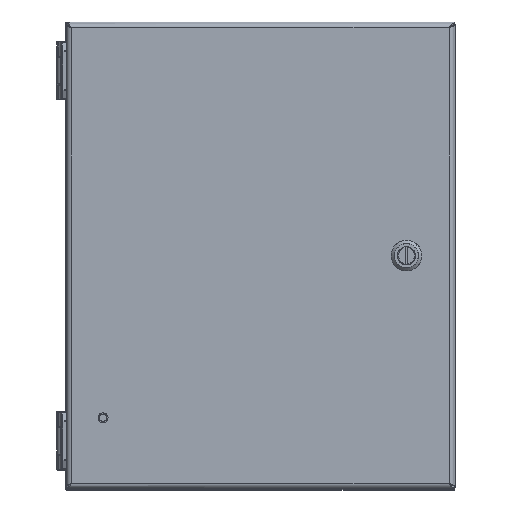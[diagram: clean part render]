
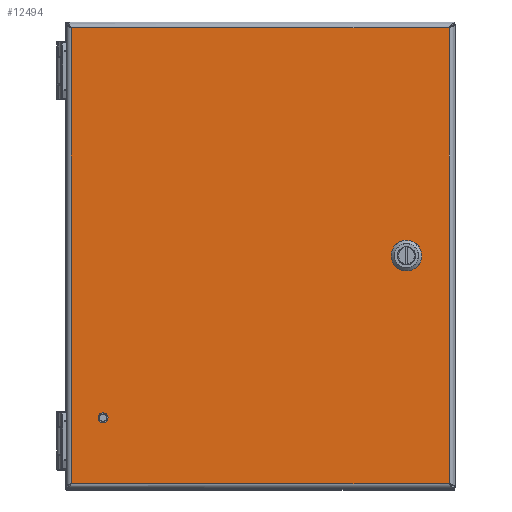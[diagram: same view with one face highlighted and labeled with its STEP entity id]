
A CAD part, top view. The second image highlights one B-rep face of the part: STEP entity #12494.
In plain terms, the highlighted planar face has unit normal (0, 0, 1).
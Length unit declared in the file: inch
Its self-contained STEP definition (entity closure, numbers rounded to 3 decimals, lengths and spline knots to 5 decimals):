
#10501=CARTESIAN_POINT('',(-4.035,-4.16,0.81));
#10502=DIRECTION('',(0.,0.,1.));
#10503=DIRECTION('',(-1.,0.,0.));
#10504=AXIS2_PLACEMENT_3D('',#10501,#10502,#10503);
#10509=CARTESIAN_POINT('',(-4.035,-4.16,0.81));
#10510=DIRECTION('',(0.,0.,1.));
#10511=DIRECTION('',(1.,0.,0.));
#10512=AXIS2_PLACEMENT_3D('',#10509,#10510,#10511);
#10517=DIRECTION('',(0.707,0.707,0.));
#10518=VECTOR('',#10517,0.30984);
#10519=CARTESIAN_POINT('',(3.44447,0.08845,0.81));
#10520=LINE('',#10519,#10518);
#10524=CARTESIAN_POINT('',(3.752,0.,0.81));
#10525=DIRECTION('',(0.,0.,1.));
#10526=DIRECTION('',(-0.961,0.276,0.));
#10527=AXIS2_PLACEMENT_3D('',#10524,#10525,#10526);
#10532=DIRECTION('',(-0.707,0.707,0.));
#10533=VECTOR('',#10532,0.30984);
#10534=CARTESIAN_POINT('',(3.66355,-0.30753,0.81));
#10535=LINE('',#10534,#10533);
#10539=CARTESIAN_POINT('',(3.752,0.,0.81));
#10540=DIRECTION('',(0.,0.,1.));
#10541=DIRECTION('',(-0.276,-0.961,0.));
#10542=AXIS2_PLACEMENT_3D('',#10539,#10540,#10541);
#10547=DIRECTION('',(-0.707,-0.707,0.));
#10548=VECTOR('',#10547,0.30984);
#10549=CARTESIAN_POINT('',(4.05953,-0.08845,0.81));
#10550=LINE('',#10549,#10548);
#10554=CARTESIAN_POINT('',(3.752,0.,0.81));
#10555=DIRECTION('',(0.,0.,1.));
#10556=DIRECTION('',(0.961,-0.276,0.));
#10557=AXIS2_PLACEMENT_3D('',#10554,#10555,#10556);
#10562=DIRECTION('',(0.707,-0.707,0.));
#10563=VECTOR('',#10562,0.30984);
#10564=CARTESIAN_POINT('',(3.84045,0.30753,0.81));
#10565=LINE('',#10564,#10563);
#10569=CARTESIAN_POINT('',(3.752,0.,0.81));
#10570=DIRECTION('',(0.,0.,1.));
#10571=DIRECTION('',(0.276,0.961,0.));
#10572=AXIS2_PLACEMENT_3D('',#10569,#10570,#10571);
#10577=DIRECTION('',(1.,0.,0.));
#10578=VECTOR('',#10577,9.7);
#10579=CARTESIAN_POINT('',(-4.85,-5.85,0.81));
#10580=LINE('',#10579,#10578);
#10669=DIRECTION('',(0.,1.,0.));
#10670=VECTOR('',#10669,11.7);
#10671=CARTESIAN_POINT('',(4.85,-5.85,0.81));
#10672=LINE('',#10671,#10670);
#10719=DIRECTION('',(-1.,0.,0.));
#10720=VECTOR('',#10719,9.7);
#10721=CARTESIAN_POINT('',(4.85,5.85,0.81));
#10722=LINE('',#10721,#10720);
#10818=DIRECTION('',(0.,-1.,0.));
#10819=VECTOR('',#10818,11.7);
#10820=CARTESIAN_POINT('',(-4.85,5.85,0.81));
#10821=LINE('',#10820,#10819);
#12207=CARTESIAN_POINT('',(-4.85,5.85,0.81));
#12208=CARTESIAN_POINT('',(-4.85,-5.85,0.81));
#12209=VERTEX_POINT('',#12207);
#12210=VERTEX_POINT('',#12208);
#12211=CARTESIAN_POINT('',(4.85,-5.85,0.81));
#12212=CARTESIAN_POINT('',(4.85,5.85,0.81));
#12213=VERTEX_POINT('',#12211);
#12214=VERTEX_POINT('',#12212);
#12297=CARTESIAN_POINT('',(-4.13305,-4.16,0.81));
#12298=CARTESIAN_POINT('',(-3.93695,-4.16,0.81));
#12299=VERTEX_POINT('',#12297);
#12300=VERTEX_POINT('',#12298);
#12305=CARTESIAN_POINT('',(3.44447,0.08845,0.81));
#12306=CARTESIAN_POINT('',(3.66355,0.30753,0.81));
#12307=VERTEX_POINT('',#12305);
#12308=VERTEX_POINT('',#12306);
#12309=CARTESIAN_POINT('',(3.84045,0.30753,0.81));
#12310=VERTEX_POINT('',#12309);
#12311=CARTESIAN_POINT('',(4.05953,0.08845,0.81));
#12312=VERTEX_POINT('',#12311);
#12313=CARTESIAN_POINT('',(4.05953,-0.08845,0.81));
#12314=VERTEX_POINT('',#12313);
#12315=CARTESIAN_POINT('',(3.84045,-0.30753,0.81));
#12316=VERTEX_POINT('',#12315);
#12317=CARTESIAN_POINT('',(3.66355,-0.30753,0.81));
#12318=VERTEX_POINT('',#12317);
#12319=CARTESIAN_POINT('',(3.44447,-0.08845,0.81));
#12320=VERTEX_POINT('',#12319);
#12455=CARTESIAN_POINT('',(0.,0.,0.81));
#12456=DIRECTION('',(0.,0.,1.));
#12457=DIRECTION('',(1.,0.,0.));
#12458=AXIS2_PLACEMENT_3D('',#12455,#12456,#12457);
#12459=PLANE('',#12458);
#12461=ORIENTED_EDGE('',*,*,#12460,.F.);
#12463=ORIENTED_EDGE('',*,*,#12462,.F.);
#12465=ORIENTED_EDGE('',*,*,#12464,.F.);
#12467=ORIENTED_EDGE('',*,*,#12466,.F.);
#12468=EDGE_LOOP('',(#12461,#12463,#12465,#12467));
#12469=FACE_OUTER_BOUND('',#12468,.F.);
#12471=ORIENTED_EDGE('',*,*,#12470,.T.);
#12473=ORIENTED_EDGE('',*,*,#12472,.T.);
#12474=EDGE_LOOP('',(#12471,#12473));
#12475=FACE_BOUND('',#12474,.F.);
#12477=ORIENTED_EDGE('',*,*,#12476,.F.);
#12479=ORIENTED_EDGE('',*,*,#12478,.T.);
#12481=ORIENTED_EDGE('',*,*,#12480,.F.);
#12483=ORIENTED_EDGE('',*,*,#12482,.T.);
#12485=ORIENTED_EDGE('',*,*,#12484,.F.);
#12487=ORIENTED_EDGE('',*,*,#12486,.T.);
#12489=ORIENTED_EDGE('',*,*,#12488,.F.);
#12491=ORIENTED_EDGE('',*,*,#12490,.T.);
#12492=EDGE_LOOP('',(#12477,#12479,#12481,#12483,#12485,#12487,#12489,#12491));
#12493=FACE_BOUND('',#12492,.F.);
#10505=CIRCLE('',#10504,0.09805);
#10513=CIRCLE('',#10512,0.09805);
#10528=CIRCLE('',#10527,0.32);
#10543=CIRCLE('',#10542,0.32);
#10558=CIRCLE('',#10557,0.32);
#10573=CIRCLE('',#10572,0.32);
#12460=EDGE_CURVE('',#12210,#12213,#10580,.T.);
#12462=EDGE_CURVE('',#12209,#12210,#10821,.T.);
#12464=EDGE_CURVE('',#12214,#12209,#10722,.T.);
#12466=EDGE_CURVE('',#12213,#12214,#10672,.T.);
#12470=EDGE_CURVE('',#12299,#12300,#10505,.T.);
#12472=EDGE_CURVE('',#12300,#12299,#10513,.T.);
#12476=EDGE_CURVE('',#12307,#12308,#10520,.T.);
#12478=EDGE_CURVE('',#12307,#12320,#10528,.T.);
#12480=EDGE_CURVE('',#12318,#12320,#10535,.T.);
#12482=EDGE_CURVE('',#12318,#12316,#10543,.T.);
#12484=EDGE_CURVE('',#12314,#12316,#10550,.T.);
#12486=EDGE_CURVE('',#12314,#12312,#10558,.T.);
#12488=EDGE_CURVE('',#12310,#12312,#10565,.T.);
#12490=EDGE_CURVE('',#12310,#12308,#10573,.T.);
#12494=ADVANCED_FACE('',(#12469,#12475,#12493),#12459,.T.);
